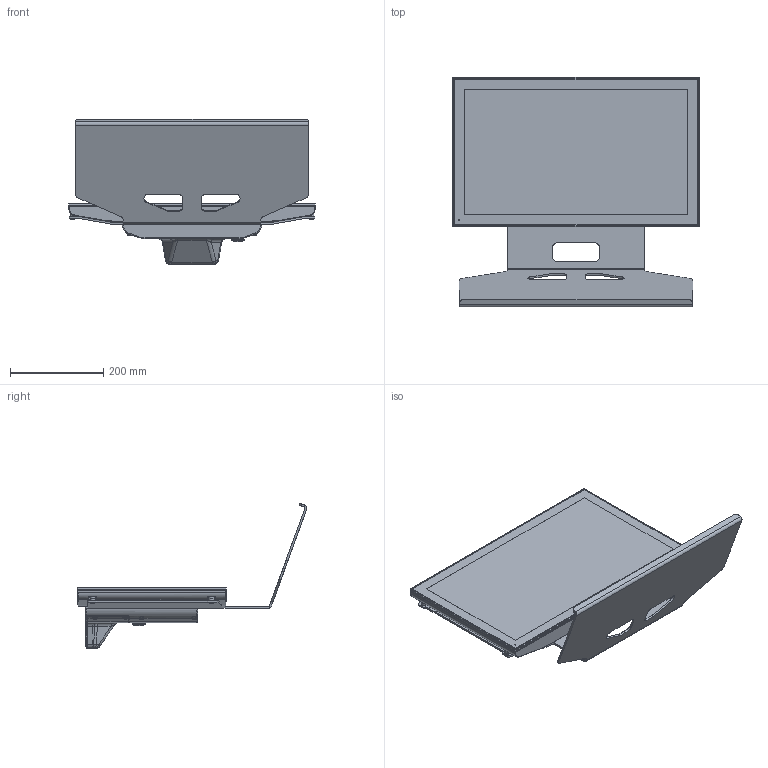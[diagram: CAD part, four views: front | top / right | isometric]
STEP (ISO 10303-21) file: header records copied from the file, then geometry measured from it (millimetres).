
FILE_DESCRIPTION (( 'STEP AP214' ), '1' );
FILE_NAME ('vk3500_mk200_215_top_NO_maniglie_usbpost_portatastiera.STEP', '2022-05-04T15:53:20', ( '' ), ( '' ), 'SwSTEP 2.0', 'SolidWorks 2021', '' );
FILE_SCHEMA (( 'AUTOMOTIVE_DESIGN' ));
Length unit declared in the file: millimetre
Products named in the file (13): 52706002; 55688012; ________________________________________^00_d18201915; 50342037; 56600541; 57836056_Default<A macchina>; 59836016; 69111034; 56600624; 55600028; vk3500_mk200_215_top_NO_maniglie_usbpost_portatastiera; kit_posteriore_arm_usb3; 56636883
Assembly tree (17 placements, depth 4):
  ________________________________________^00_d18201915
  vk3500_mk200_215_top_NO_maniglie_usbpost_portatastiera
    56600624
      56600541
        56636883
        50342037
      55600028
        55688012
    57836056_Default<A macchina>
    52706002  x4
    59836016
    69111034  x4
    kit_posteriore_arm_usb3
Bounding box: 528.75 x 491.64 x 310.88 mm (x, y, z)
Volume: 2028252.3 mm3; surface area: 1452091 mm2
Topology: 25 solids, 57 shells, 3557 faces, 8605 edges, 5244 vertices
Faces by surface type: plane 1092, cylinder 1036, cone 670, bspline 516, torus 181, sphere 62
Entity records: 166154 total; most frequent: CARTESIAN_POINT 62412, ORIENTED_EDGE 16640, DIRECTION 15934, EDGE_CURVE 8334, AXIS2_PLACEMENT_3D 6134, VERTEX_POINT 5118, EDGE_LOOP 3800, LINE 3666
